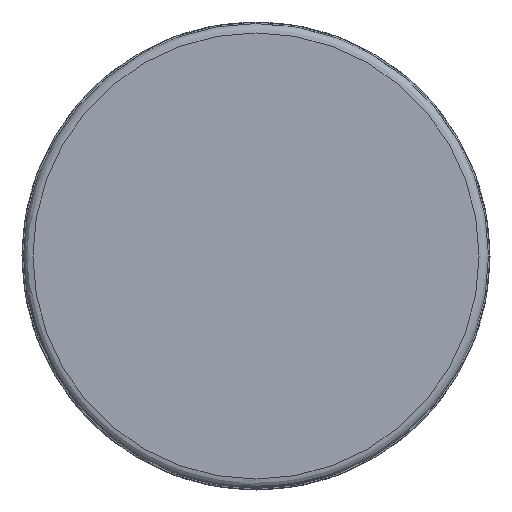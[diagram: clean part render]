
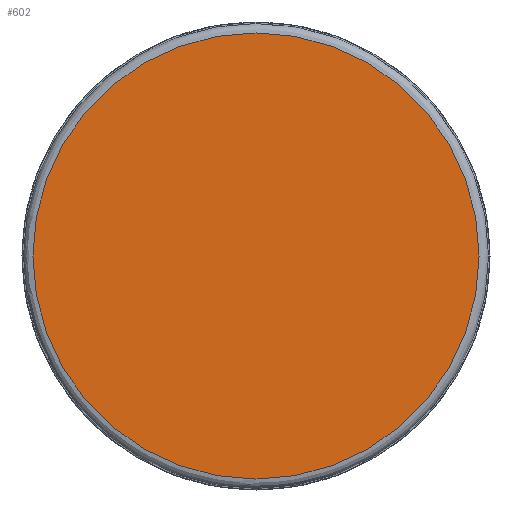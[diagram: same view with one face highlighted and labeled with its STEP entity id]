
A CAD part, left-side view. The second image highlights one B-rep face of the part: STEP entity #602.
In plain terms, the highlighted planar face has unit normal (-1, 0, 0).
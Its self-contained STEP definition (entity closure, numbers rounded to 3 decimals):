
#577=CARTESIAN_POINT('',(-533.136,-398.709,-89.4));
#578=DIRECTION('',(-1.0,0.0,0.0));
#579=DIRECTION('',(0.0,-1.0,0.0));
#580=AXIS2_PLACEMENT_3D('',#577,#578,#579);
#581=PLANE('',#580);
#582=CARTESIAN_POINT('',(-533.136,-559.609,0.0));
#583=VERTEX_POINT('',#582);
#584=CARTESIAN_POINT('',(-533.136,-416.609,0.0));
#585=VERTEX_POINT('',#584);
#586=CARTESIAN_POINT('',(-533.136,-488.109,0.0));
#587=DIRECTION('',(-1.0,0.0,0.0));
#588=DIRECTION('',(0.0,-1.0,0.0));
#589=AXIS2_PLACEMENT_3D('',#586,#587,#588);
#590=CIRCLE('',#589,71.5);
#591=EDGE_CURVE('',#583,#585,#590,.T.);
#592=ORIENTED_EDGE('',*,*,#591,.T.);
#593=CARTESIAN_POINT('',(-533.136,-488.109,0.0));
#594=DIRECTION('',(-1.0,0.0,0.0));
#595=DIRECTION('',(0.0,-1.0,0.0));
#596=AXIS2_PLACEMENT_3D('',#593,#594,#595);
#597=CIRCLE('',#596,71.5);
#598=EDGE_CURVE('',#585,#583,#597,.T.);
#599=ORIENTED_EDGE('',*,*,#598,.T.);
#600=EDGE_LOOP('',(#592,#599));
#601=FACE_OUTER_BOUND('',#600,.T.);
#602=ADVANCED_FACE('',(#601),#581,.T.);
